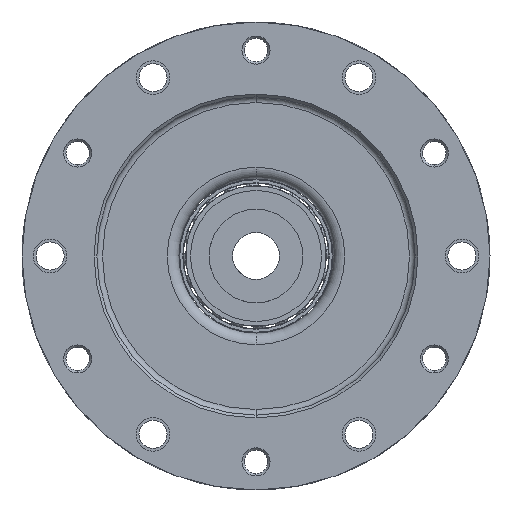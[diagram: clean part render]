
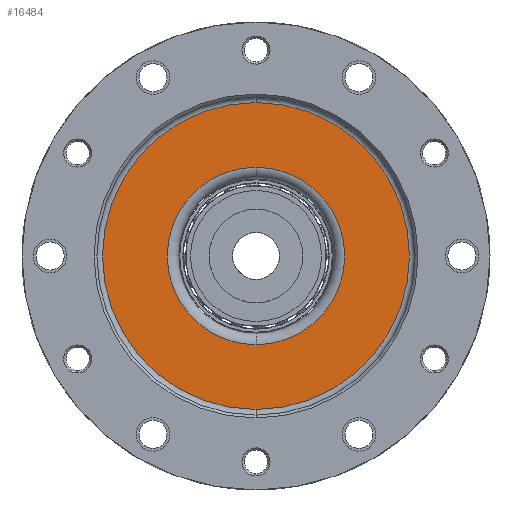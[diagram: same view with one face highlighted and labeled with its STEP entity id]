
A CAD part, left-side view. The second image highlights one B-rep face of the part: STEP entity #16484.
In plain terms, the highlighted planar face has unit normal (-1, 0, 0).
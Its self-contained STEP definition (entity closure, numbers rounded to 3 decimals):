
#131 = FACE_OUTER_BOUND ( 'NONE', #18220, .T. ) ;
#140 = CARTESIAN_POINT ( 'NONE',  ( -6.1, 0., 0. ) ) ;
#594 = CIRCLE ( 'NONE', #9660, 8.2 ) ;
#651 = EDGE_CURVE ( 'NONE', #18035, #13833, #2056, .T. ) ;
#721 = DIRECTION ( 'NONE',  ( 1., 0., 0. ) ) ;
#787 = DIRECTION ( 'NONE',  ( 0., 0., -1. ) ) ;
#1772 = ORIENTED_EDGE ( 'NONE', *, *, #651, .T. ) ;
#2056 = CIRCLE ( 'NONE', #15119, 4.74 ) ;
#3393 = CIRCLE ( 'NONE', #20192, 4.74 ) ;
#3589 = AXIS2_PLACEMENT_3D ( 'NONE', #10520, #9108, #20003 ) ;
#4028 = ORIENTED_EDGE ( 'NONE', *, *, #5263, .T. ) ;
#4380 = PLANE ( 'NONE',  #3589 ) ;
#4381 = CIRCLE ( 'NONE', #8933, 8.2 ) ;
#4502 = VERTEX_POINT ( 'NONE', #8096 ) ;
#4937 = CARTESIAN_POINT ( 'NONE',  ( -6.1, 0., -4.74 ) ) ;
#5263 = EDGE_CURVE ( 'NONE', #13833, #18035, #3393, .T. ) ;
#5338 = DIRECTION ( 'NONE',  ( 1., 0., 0. ) ) ;
#8096 = CARTESIAN_POINT ( 'NONE',  ( -6.1, 0., -8.2 ) ) ;
#8499 = FACE_BOUND ( 'NONE', #8569, .T. ) ;
#8569 = EDGE_LOOP ( 'NONE', ( #4028, #1772 ) ) ;
#8933 = AXIS2_PLACEMENT_3D ( 'NONE', #10114, #721, #11640 ) ;
#9108 = DIRECTION ( 'NONE',  ( 1., 0., 0. ) ) ;
#9275 = DIRECTION ( 'NONE',  ( 1., 0., 0. ) ) ;
#9660 = AXIS2_PLACEMENT_3D ( 'NONE', #15511, #9275, #13060 ) ;
#9798 = DIRECTION ( 'NONE',  ( 1., 0., 0. ) ) ;
#9991 = EDGE_CURVE ( 'NONE', #4502, #10317, #594, .T. ) ;
#10058 = DIRECTION ( 'NONE',  ( 0., 0., -1. ) ) ;
#10114 = CARTESIAN_POINT ( 'NONE',  ( -6.1, 0., 0. ) ) ;
#10317 = VERTEX_POINT ( 'NONE', #16800 ) ;
#10520 = CARTESIAN_POINT ( 'NONE',  ( -6.1, -4.74, 0. ) ) ;
#11640 = DIRECTION ( 'NONE',  ( 0., 0., -1. ) ) ;
#13060 = DIRECTION ( 'NONE',  ( 0., 0., -1. ) ) ;
#13290 = CARTESIAN_POINT ( 'NONE',  ( -6.1, 0., 0. ) ) ;
#13833 = VERTEX_POINT ( 'NONE', #4937 ) ;
#14628 = EDGE_CURVE ( 'NONE', #10317, #4502, #4381, .T. ) ;
#15119 = AXIS2_PLACEMENT_3D ( 'NONE', #140, #5338, #10058 ) ;
#15511 = CARTESIAN_POINT ( 'NONE',  ( -6.1, 0., 0. ) ) ;
#15545 = ORIENTED_EDGE ( 'NONE', *, *, #9991, .F. ) ;
#16179 = CARTESIAN_POINT ( 'NONE',  ( -6.1, 0., 4.74 ) ) ;
#16484 = ADVANCED_FACE ( 'NONE', ( #131, #8499 ), #4380, .F. ) ;
#16800 = CARTESIAN_POINT ( 'NONE',  ( -6.1, 0., 8.2 ) ) ;
#17534 = ORIENTED_EDGE ( 'NONE', *, *, #14628, .F. ) ;
#18035 = VERTEX_POINT ( 'NONE', #16179 ) ;
#18220 = EDGE_LOOP ( 'NONE', ( #15545, #17534 ) ) ;
#20003 = DIRECTION ( 'NONE',  ( 0., 0., -1. ) ) ;
#20192 = AXIS2_PLACEMENT_3D ( 'NONE', #13290, #9798, #787 ) ;
